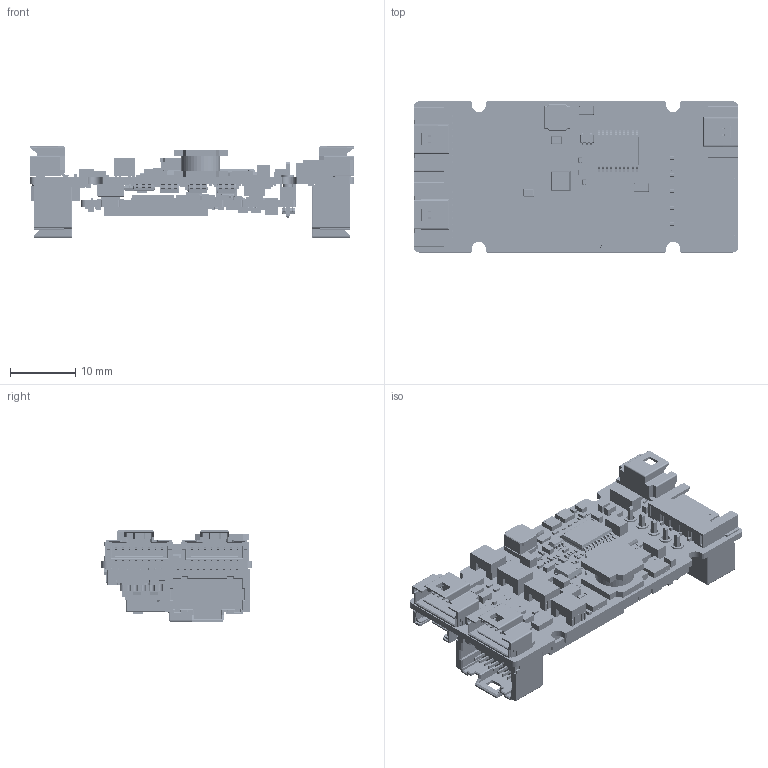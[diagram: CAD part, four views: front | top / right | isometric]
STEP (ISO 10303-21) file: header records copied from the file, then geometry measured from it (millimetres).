
FILE_DESCRIPTION(('Open CASCADE Model'),'2;1');
FILE_NAME('Open CASCADE Shape Model','2024-05-31T18:27:56',('Author'),( 'Open CASCADE'),'Open CASCADE STEP processor 7.5','Open CASCADE 7.5' ,'Unknown');
FILE_SCHEMA(('AUTOMOTIVE_DESIGN { 1 0 10303 214 1 1 1 1 }'));
Length unit declared in the file: millimetre
Products named in the file (1594): Open CASCADE STEP translator 7.5 1; Open CASCADE STEP translator 7.5 2; Open CASCADE STEP translator 7.5 3; Open CASCADE STEP translator 7.5 4; Open CASCADE STEP translator 7.5 5; Open CASCADE STEP translator 7.5 6; Open CASCADE STEP translator 7.5 7; Open CASCADE STEP translator 7.5 8; Open CASCADE STEP translator 7.5 9; Open CASCADE STEP translator 7.5 10; Open CASCADE STEP translator 7.5 11; Open CASCADE STEP translator 7.5 12; Open CASCADE STEP translator 7.5 13; Open CASCADE STEP translator 7.5 14; Open CASCADE STEP translator 7.5 15; Open CASCADE STEP translator 7.5 16; Open CASCADE STEP translator 7.5 17; Open CASCADE STEP translator 7.5 18; Open CASCADE STEP translator 7.5 19; Open CASCADE STEP translator 7.5 20; Open CASCADE STEP translator 7.5 21; Open CASCADE STEP translator 7.5 22; Open CASCADE STEP translator 7.5 23; Open CASCADE STEP translator 7.5 24; Open CASCADE STEP translator 7.5 25; Open CASCADE STEP translator 7.5 26; Open CASCADE STEP translator 7.5 27; Open CASCADE STEP translator 7.5 28; Open CASCADE STEP translator 7.5 29; Open CASCADE STEP translator 7.5 30; Open CASCADE STEP translator 7.5 31; Open CASCADE STEP translator 7.5 32; Open CASCADE STEP translator 7.5 33; Open CASCADE STEP translator 7.5 34; Open CASCADE STEP translator 7.5 35; Open CASCADE STEP translator 7.5 36; Open CASCADE STEP translator 7.5 37; Open CASCADE STEP translator 7.5 38; Open CASCADE STEP translator 7.5 39; Open CASCADE STEP translator 7.5 40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
Bounding box: 49.8 x 27.83 x 13.98 mm (x, y, z)
Volume: 4347.6 mm3; surface area: 12333.1 mm2
Topology: 1559 solids, 1605 shells, 21761 faces, 52581 edges, 34242 vertices
Faces by surface type: plane 19882, cylinder 1408, sphere 277, bspline 132, torus 40, cone 22
Full cylindrical faces by diameter (mm): 0.2 x6, 0.263 x2, 0.3 x6, 0.312 x2, 0.388 x2, 0.4 x7, 0.8 x21, 1 x1, 1.1 x1
Entity records: 731172 total; most frequent: CARTESIAN_POINT 118692, ORIENTED_EDGE 103463, DIRECTION 97426, EDGE_CURVE 51885, LINE 49018, VECTOR 49018, VERTEX_POINT 33426, AXIS2_PLACEMENT_3D 24204
